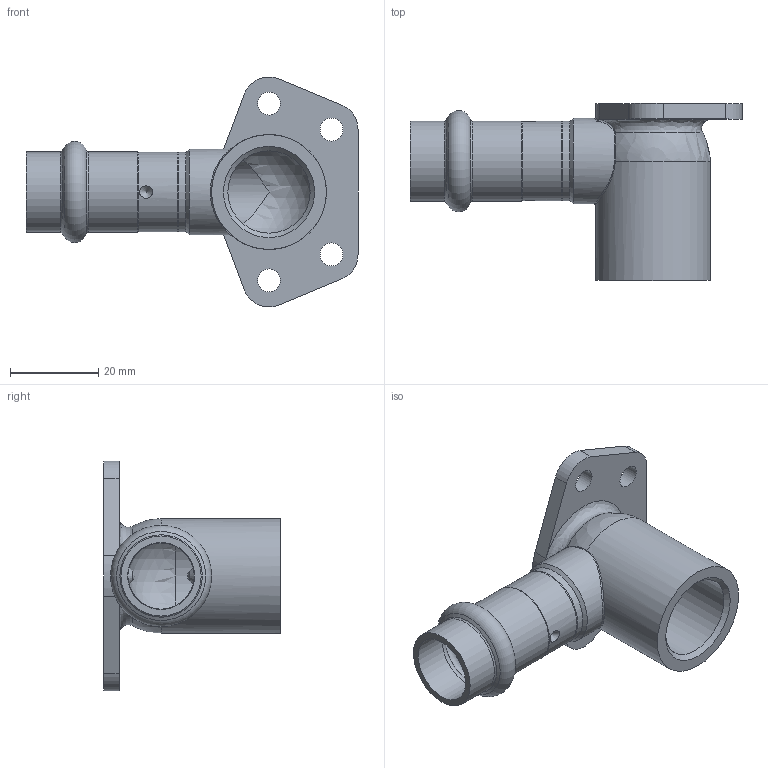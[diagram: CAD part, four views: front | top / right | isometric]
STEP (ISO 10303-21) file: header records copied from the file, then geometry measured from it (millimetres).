
FILE_DESCRIPTION((''),'2;1');
FILE_NAME('G:\Nirosan-Schmiedefeld\Technics\CAD\001 Serie 9.000\015\69472G1512H(3).stp','2017-06-29T15:35:54',('herberg'),(''),'Autodesk Inventor 2009','Autodesk Inventor 2009','');
FILE_SCHEMA(('AUTOMOTIVE_DESIGN { 1 0 10303 214 1 1 1 1 }'));
Length unit declared in the file: millimetre
Products named in the file (3): 69472G1512H(3); 69ATD1512P(0); 69HM1518P(0)
Assembly tree (2 placements, depth 2):
  69472G1512H(3)
    69ATD1512P(0)
    69HM1518P(0)
Bounding box: 75.14 x 40 x 51.97 mm (x, y, z)
Volume: 16996.9 mm3; surface area: 13140.8 mm2
Topology: 2 solids, 2 shells, 63 faces, 169 edges, 106 vertices
Faces by surface type: cylinder 18, bspline 16, plane 12, cone 11, sphere 4, torus 2
Full cylindrical faces by diameter (mm): 15 x2, 15.15 x2, 18 x2, 18.15 x2, 19.4 x1, 21.6 x1, 26 x1
Entity records: 3209 total; most frequent: CARTESIAN_POINT 1845, DIRECTION 264, ORIENTED_EDGE 230, AXIS2_PLACEMENT_3D 120, EDGE_CURVE 115, EDGE_LOOP 109, VERTEX_POINT 90, CIRCLE 68
